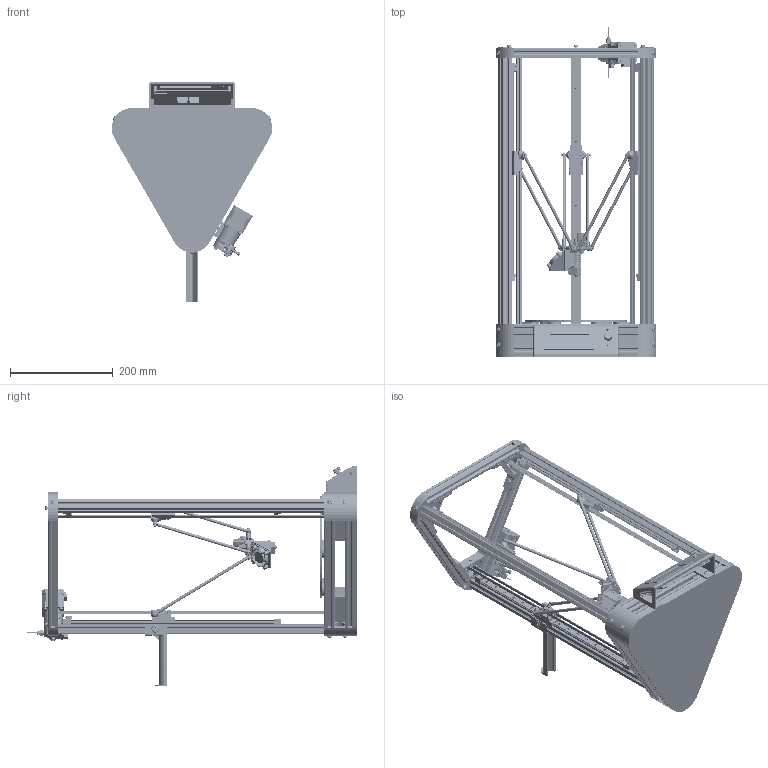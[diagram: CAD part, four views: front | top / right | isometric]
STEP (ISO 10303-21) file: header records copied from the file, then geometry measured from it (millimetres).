
FILE_DESCRIPTION (( 'STEP AP214' ), '1' );
FILE_NAME ('Kossel.STEP', '2013-12-23T15:15:41', ( '' ), ( '' ), 'SwSTEP 2.0', 'SolidWorks 2011', '' );
FILE_SCHEMA (( 'AUTOMOTIVE_DESIGN' ));
Length unit declared in the file: millimetre
Products named in the file (67): Filament_Spool_Holder_2020_Default; 4mm base; screen stand ass_Default; button; screen stand; screen_Default; 1.75 pla; 200mmx4mm Glass; carriage ass-01sw; HI_b_SSEBT13; m3x20 socket screw; carriage sw; stepper motor with Planetary gearbox; M5x20 socket screw; m5 nut; m4x25 socket screw; spring012; m4x30 socket screw; 625zz ball bearing; extruder sw; frame_extruder sw; Spur Gear; Planetary gearbox; Traxxas 5347 on 180mm Carbon tube; M4X30 set screw; Traxxas 5347; 180mm Carbon tube; hot-end-nozzle; m3x10 socket screw; hotend_fan 4cm; nozzle_Default; m3x16 socket screw; m3x25 socket screw; 5347 Hollow Balls; KQB2H04-M5_2_14a; retractable sw; Brushless_DC_Fan_2; Brushless_DC_Fan_1; Brushless_DC_Fan; hotend_fan sw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
Assembly tree (210 placements, depth 4):
  Kossel
    carriage ass-01sw  x3
      5347 Hollow Balls
      m3 nut
      m3x20 socket screw
      m3x10 socket screw
      m3x16 socket screw
      carriage sw
      HI_b_SSEBT13
    m5 t-slot  x2
    200mmx4mm Glass
    M3x8 socket screw  x3
    m5x10 button screw  x2
    Filament_Spool_Holder_2020_Default
    m3 t-slot  x3
    Kossel ass-01  x3
      F623ZZ
      m3 t-slot
      M3x8 socket screw
      m4 nut
      m5 t-slot
      OMRON-SS
      MP1872-Stepper_Motor_NEMA17
      m3 nut
      Kossel-parts001
      20x20x600
      m4x20 socket screw
      m5x10 button screw
      HI_r_SSEBLT13-396
      m4x10 socket screw
      glass_tab sw
      endstop sw
      M5x10 Socket Flat screw
      frame_top 2020sw
      20x20x240
      Gasket id4.2
      frame_motor 2020sw
      m3x30 socket screw
      1164mm GT2 belt
    m3 nut  x3
    hot-end-nozzle
      m3x10 socket screw  x8
      m3x16 socket screw  x5
      m3 nut  x6
      OMRON-SS
      m3x25 socket screw  x6
      Brushless_DC_Fan_2
        Brushless_DC_Fan
        Brushless_DC_Fan_1
      nozzle_Default
      hotend_fan 4cm
      KQB2H04-M5_2_14a
      retractable sw
      hotend_fan sw
      5347 Hollow Balls  x6
      peek insulator-barrel
      effector sw
    4mm base
    stepper motor with Planetary gearbox
      spring012
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Bounding box: 313.09 x 644.94 x 430.92 mm (x, y, z)
Volume: 2311245.6 mm3; surface area: 1469027 mm2
Topology: 437 solids, 437 shells, 12114 faces, 29343 edges, 18735 vertices
Faces by surface type: plane 6606, cylinder 3624, cone 1144, bspline 726, torus 8, sphere 6
Entity records: 120068 total; most frequent: CARTESIAN_POINT 27674, DIRECTION 15418, ORIENTED_EDGE 15212, EDGE_CURVE 7606, AXIS2_PLACEMENT_3D 5324, VERTEX_POINT 4945, LINE 4770, VECTOR 4770
